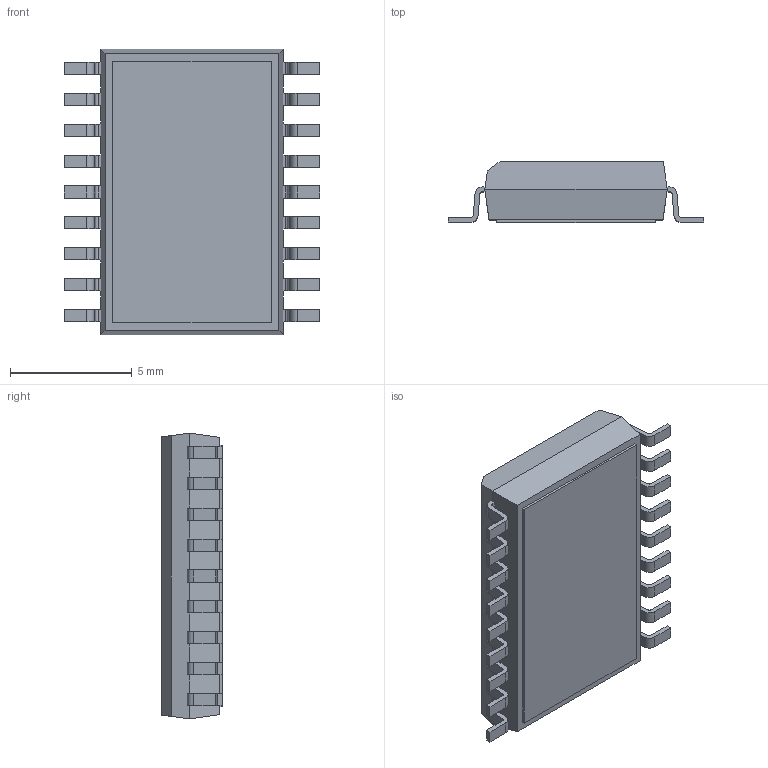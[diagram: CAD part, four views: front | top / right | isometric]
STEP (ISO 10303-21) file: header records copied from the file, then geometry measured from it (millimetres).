
FILE_DESCRIPTION (( 'STEP AP214' ), '1' );
FILE_NAME ('SOP127P1030X250_HS-18_MS-013.BB.STEP', '2014-10-29T14:55:53', ( 'Tester2' ), ( '' ), 'SwSTEP 2.0', 'SolidWorks 2012', '' );
FILE_SCHEMA (( 'AUTOMOTIVE_DESIGN' ));
Length unit declared in the file: millimetre
Products named in the file (1): SOP127P1030X250_HS-18_MS-013.BB
Bounding box: 10.5 x 2.5 x 11.75 mm (x, y, z)
Volume: 214.2 mm3; surface area: 319.5 mm2
Topology: 1 solids, 1 shells, 253 faces, 743 edges, 494 vertices
Faces by surface type: plane 179, cylinder 74
Entity records: 11069 total; most frequent: CARTESIAN_POINT 1491, ORIENTED_EDGE 1486, DIRECTION 1399, EDGE_CURVE 743, VECTOR 595, LINE 595, VERTEX_POINT 494, AXIS2_PLACEMENT_3D 402
